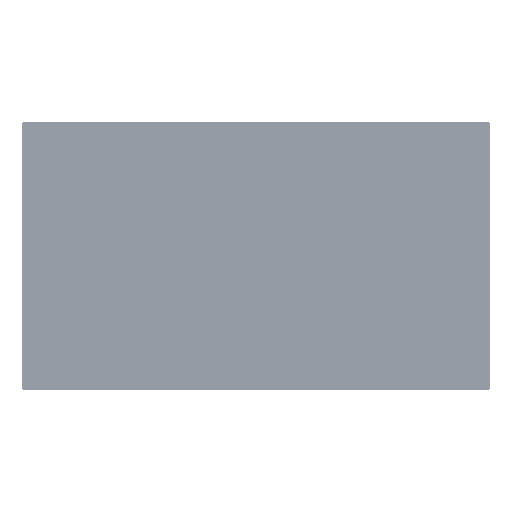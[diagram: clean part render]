
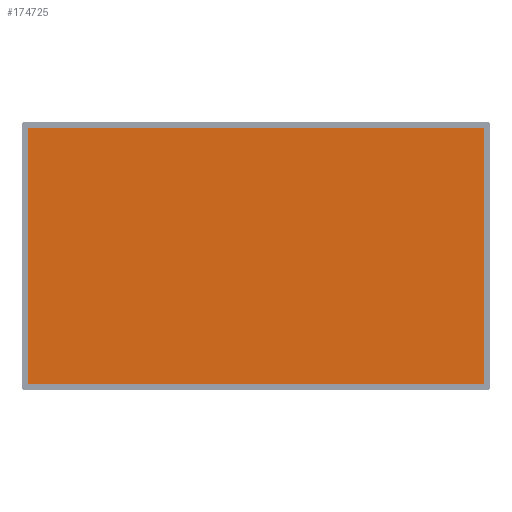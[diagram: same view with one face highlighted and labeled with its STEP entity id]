
A CAD part, top view. The second image highlights one B-rep face of the part: STEP entity #174725.
In plain terms, the highlighted planar face has unit normal (0, 0, 1).
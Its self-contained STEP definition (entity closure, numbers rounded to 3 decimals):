
#12635 = EDGE_CURVE ( 'NONE', #1076928, #449105, #575151, .T. ) ;
#29824 = EDGE_CURVE ( 'NONE', #711263, #306101, #625024, .T. ) ;
#35981 = CARTESIAN_POINT ( 'NONE',  ( -470.592, 264.706, -2.3 ) ) ;
#56325 = CARTESIAN_POINT ( 'NONE',  ( 470.592, 264.706, -2.3 ) ) ;
#121522 = VECTOR ( 'NONE', #1015882, 1000. ) ;
#127024 = CARTESIAN_POINT ( 'NONE',  ( -470.592, 264.706, -2.3 ) ) ;
#134026 = ORIENTED_EDGE ( 'NONE', *, *, #12635, .T. ) ;
#174725 = ADVANCED_FACE ( 'NONE', ( #1002889 ), #877198, .T. ) ;
#208359 = DIRECTION ( 'NONE',  ( 1., 0., 0. ) ) ;
#236023 = LINE ( 'NONE', #56325, #1025294 ) ;
#281960 = DIRECTION ( 'NONE',  ( 1., 0., 0. ) ) ;
#306101 = VERTEX_POINT ( 'NONE', #800645 ) ;
#328807 = DIRECTION ( 'NONE',  ( -1., 0., 0. ) ) ;
#364623 = CARTESIAN_POINT ( 'NONE',  ( -470.592, -264.71, -2.3 ) ) ;
#382398 = CARTESIAN_POINT ( 'NONE',  ( 0., -0.002, -2.3 ) ) ;
#427998 = VECTOR ( 'NONE', #281960, 1000. ) ;
#449105 = VERTEX_POINT ( 'NONE', #364623 ) ;
#548660 = LINE ( 'NONE', #1070791, #427998 ) ;
#557227 = VECTOR ( 'NONE', #630753, 1000. ) ;
#575151 = LINE ( 'NONE', #35981, #121522 ) ;
#587514 = ORIENTED_EDGE ( 'NONE', *, *, #767656, .T. ) ;
#598384 = AXIS2_PLACEMENT_3D ( 'NONE', #382398, #649078, #208359 ) ;
#625024 = LINE ( 'NONE', #804669, #557227 ) ;
#630753 = DIRECTION ( 'NONE',  ( 0., 1., 0. ) ) ;
#649078 = DIRECTION ( 'NONE',  ( 0., 0., 1. ) ) ;
#711263 = VERTEX_POINT ( 'NONE', #1064143 ) ;
#767656 = EDGE_CURVE ( 'NONE', #449105, #711263, #548660, .T. ) ;
#800645 = CARTESIAN_POINT ( 'NONE',  ( 470.592, 264.706, -2.3 ) ) ;
#804669 = CARTESIAN_POINT ( 'NONE',  ( 470.592, -264.71, -2.3 ) ) ;
#872291 = ORIENTED_EDGE ( 'NONE', *, *, #1132024, .T. ) ;
#877198 = PLANE ( 'NONE',  #598384 ) ;
#998210 = EDGE_LOOP ( 'NONE', ( #872291, #134026, #587514, #1055206 ) ) ;
#1002889 = FACE_OUTER_BOUND ( 'NONE', #998210, .T. ) ;
#1015882 = DIRECTION ( 'NONE',  ( 0., -1., 0. ) ) ;
#1025294 = VECTOR ( 'NONE', #328807, 1000. ) ;
#1055206 = ORIENTED_EDGE ( 'NONE', *, *, #29824, .T. ) ;
#1064143 = CARTESIAN_POINT ( 'NONE',  ( 470.592, -264.71, -2.3 ) ) ;
#1070791 = CARTESIAN_POINT ( 'NONE',  ( -470.592, -264.71, -2.3 ) ) ;
#1076928 = VERTEX_POINT ( 'NONE', #127024 ) ;
#1132024 = EDGE_CURVE ( 'NONE', #306101, #1076928, #236023, .T. ) ;
